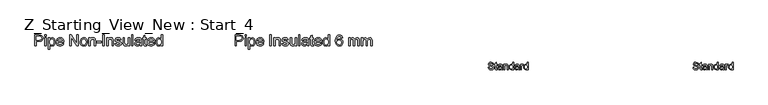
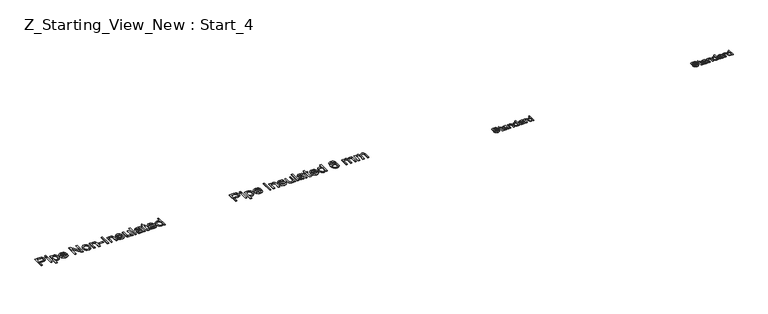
"""IFC4 building model written with IfcOpenShell, lengths in millimetres: pipe fitting geometry, Z_Starting_View_New : Start_4."""

from ifc_helpers import new_model, si_unit, origin, origin_with_axes, place, context, project, spatial, polyline, outline, extrude, source, transform, mapped, element, save


def z_starting_view_new_start_4_25267f94(model_context):
    return source(origin(), model_context, "Body", "SweptSolid", [
        extrude(outline(polyline([(24498.2402014, 7445.7857303), (24498.2402014, 7596.4701955), (24554.0846883, 7596.4701955), (24576.5990664, 7595.0354557), (24594.9011956, 7587.9905155), (24606.76539, 7573.4223885), (24611.2535503, 7552.8761791), (24608.2231224, 7535.1166757), (24599.1318386, 7520.3186225), (24582.1310919, 7510.3306263), (24555.3722752, 7507.0012943), (24517.0757595, 7507.0012943), (24517.0757595, 7445.7857303), (24498.2402014, 7445.7857303)]), holes=[polyline([(24517.0757595, 7525.8368524), (24556.4759212, 7525.8368524), (24573.1777638, 7527.5658978), (24584.2142237, 7532.7530339), (24590.36705, 7541.0763641), (24592.4179922, 7552.2139915), (24587.5803439, 7567.8121881), (24574.870021, 7576.3470504), (24556.0344628, 7577.6346373), (24517.0757595, 7577.6346373), (24517.0757595, 7525.8368524)])]), origin_with_axes(), (0.0, 0.0, 1.0), 5.0),
        extrude(outline(polyline([(24634.797998, 7445.7857303), (24634.797998, 7556.4446344), (24653.6335562, 7556.4446344), (24653.6335562, 7445.7857303), (24634.797998, 7445.7857303)])), origin_with_axes(), (0.0, 0.0, 1.0), 5.0),
        extrude(outline(polyline([(24634.797998, 7577.6346373), (24634.797998, 7596.4701955), (24653.6335562, 7596.4701955), (24653.6335562, 7577.6346373), (24634.797998, 7577.6346373)])), origin_with_axes(), (0.0, 0.0, 1.0), 5.0),
        extrude(outline(polyline([(24681.8868934, 7403.4057244), (24681.8868934, 7556.4446344), (24700.7224515, 7556.4446344), (24700.7224515, 7537.9769583), (24713.7454742, 7553.593549), (24731.3302335, 7558.7990792), (24744.0681476, 7556.9780633), (24755.205775, 7551.5150157), (24764.2740662, 7542.7410301), (24770.8039716, 7530.9872003), (24776.0646842, 7501.9613109), (24774.5793606, 7485.8526781), (24770.1233899, 7471.4454994), (24762.8393264, 7459.4709405), (24752.8697244, 7450.6601667), (24741.2584489, 7445.2385058), (24729.0493652, 7443.4312855), (24712.6602223, 7448.2689337), (24700.7224515, 7460.5010101), (24700.7224515, 7403.4057244), (24681.8868934, 7403.4057244)]), holes=[polyline([(24700.7224515, 7500.2322656), (24702.7595981, 7483.346482), (24708.8710377, 7471.5374699), (24717.8887451, 7464.5845002), (24728.644695, 7462.2668436), (24739.5753888, 7464.6672737), (24748.8230224, 7471.8685637), (24755.1276001, 7484.1098371), (24757.229126, 7501.6302171), (24755.1781839, 7518.4240302), (24749.0253575, 7530.3985892), (24740.0214457, 7537.5722881), (24729.4172472, 7539.963521), (24718.7716619, 7537.4205367), (24709.4228607, 7529.7915839), (24702.8975538, 7517.3157857), (24700.7224515, 7500.2322656)])]), origin_with_axes(), (0.0, 0.0, 1.0), 5.0),
        extrude(outline(polyline([(24874.7306353, 7478.747957), (24893.1983114, 7476.3935123), (24886.5442458, 7462.4783758), (24875.9262517, 7452.0765124), (24861.5834525, 7445.5925922), (24843.7549713, 7443.4312855), (24821.6544604, 7447.1606892), (24804.6491152, 7458.3489004), (24793.8057934, 7476.2693521), (24790.1913528, 7500.1954774), (24793.8425816, 7524.9263445), (24804.796268, 7543.4216118), (24821.571687, 7554.9547123), (24842.6881135, 7558.7990792), (24863.1469509, 7554.9639094), (24879.4947071, 7543.4584), (24890.2138687, 7524.9999209), (24893.7869226, 7500.305842), (24893.676558, 7495.2290704), (24809.0269109, 7495.2290704), (24812.2872651, 7481.129993), (24819.8610357, 7470.7649177), (24830.7917295, 7464.3913622), (24844.1228533, 7462.2668436), (24862.5905294, 7466.203181), (24874.7306353, 7478.747957)]), holes=[polyline([(24809.0269109, 7514.0646286), (24874.9513645, 7514.0646286), (24872.4037816, 7524.0158365), (24867.4097836, 7531.1343531), (24856.428506, 7537.7562291), (24842.6145371, 7539.963521), (24829.9180097, 7538.202286), (24819.4195773, 7532.9185808), (24812.1217182, 7524.6826227), (24809.0269109, 7514.0646286)])]), origin_with_axes(), (0.0, 0.0, 1.0), 5.0),
        extrude(outline(polyline([(24976.1924895, 7445.7857303), (24976.1924895, 7596.4701955), (24995.0280477, 7596.4701955), (24995.0280477, 7445.7857303), (24976.1924895, 7445.7857303)])), origin_with_axes(), (0.0, 0.0, 1.0), 5.0),
        extrude(outline(polyline([(25030.3447192, 7445.7857303), (25030.3447192, 7556.4446344), (25049.1802774, 7556.4446344), (25049.1802774, 7540.9935906), (25063.5828575, 7554.347707), (25083.2461501, 7558.7990792), (25101.0332446, 7555.2122297), (25113.1733504, 7545.7944507), (25118.8203391, 7531.9436935), (25119.8136204, 7513.7335348), (25119.8136204, 7445.7857303), (25100.9780623, 7445.7857303), (25100.9780623, 7511.195149), (25098.8075585, 7527.8602034), (25091.1372189, 7536.6709772), (25078.2061668, 7539.963521), (25067.1743055, 7538.114914), (25057.770322, 7532.5690929), (25051.3277885, 7521.8545298), (25049.1802774, 7504.4996967), (25049.1802774, 7445.7857303), (25030.3447192, 7445.7857303)])), origin_with_axes(), (0.0, 0.0, 1.0), 5.0),
        extrude(outline(polyline([(25138.6491786, 7478.747957), (25157.4847368, 7481.1024018), (25160.4553839, 7473.0457861), (25166.20354, 7467.122886), (25186.1795324, 7462.2668436), (25205.3829725, 7466.7182158), (25211.6369664, 7477.1660645), (25210.0642709, 7481.9669245), (25205.3461843, 7485.6273503), (25185.9588032, 7490.9984275), (25157.5951014, 7500.2138715), (25145.2158722, 7510.9744198), (25141.0036234, 7526.1679462), (25144.3881377, 7540.2026443), (25153.6219758, 7550.9264045), (25165.5965347, 7556.4998167), (25181.8017366, 7558.7990792), (25204.7207849, 7555.1018651), (25219.2889119, 7545.0954749), (25225.7636351, 7528.1912972), (25206.9280769, 7525.8368524), (25199.8463485, 7536.2295188), (25183.2732646, 7539.963521), (25165.2470468, 7536.3950657), (25159.8391815, 7528.0809326), (25162.0832617, 7522.5994909), (25169.1098078, 7518.4424243), (25185.3334038, 7514.4325106), (25212.9797357, 7505.5665545), (25225.8188174, 7495.523376), (25230.4725246, 7479.1526272), (25225.009477, 7461.1264095), (25209.2457335, 7448.0482045), (25185.922015, 7443.4312855), (25166.930107, 7445.6569716), (25153.0701528, 7452.3340298), (25143.8179206, 7463.3888837), (25138.6491786, 7478.747957)])), origin_with_axes(), (0.0, 0.0, 1.0), 5.0),
        extrude(outline(polyline([(25322.2958706, 7445.7857303), (25322.2958706, 7464.8052294), (25307.5438026, 7448.7747715), (25288.3035742, 7443.4312855), (25270.5900562, 7447.1836818), (25258.3763739, 7456.6014609), (25252.7661735, 7470.4706121), (25251.6625275, 7487.9817951), (25251.6625275, 7556.4446344), (25270.4980857, 7556.4446344), (25270.4980857, 7496.8477512), (25271.6385199, 7477.644311), (25279.0881303, 7466.3687279), (25293.1228284, 7462.2668436), (25308.8497837, 7466.4606984), (25319.24245, 7477.8834343), (25322.2958706, 7498.8711022), (25322.2958706, 7556.4446344), (25341.1314287, 7556.4446344), (25341.1314287, 7445.7857303), (25322.2958706, 7445.7857303)])), origin_with_axes(), (0.0, 0.0, 1.0), 5.0),
        extrude(outline(polyline([(25367.0303212, 7445.7857303), (25367.0303212, 7596.4701955), (25385.8658794, 7596.4701955), (25385.8658794, 7445.7857303), (25367.0303212, 7445.7857303)])), origin_with_axes(), (0.0, 0.0, 1.0), 5.0),
        extrude(outline(polyline([(25484.7525597, 7459.9123989), (25466.4872186, 7447.1468936), (25446.3088912, 7443.4312855), (25430.5681403, 7445.6661686), (25418.9568648, 7452.370818), (25411.7969615, 7462.5519522), (25409.410327, 7475.2162899), (25413.0155706, 7490.1155107), (25422.488532, 7500.9312413), (25435.6771015, 7507.1116589), (25451.9742739, 7509.9443502), (25484.6421951, 7516.4190733), (25484.7525597, 7520.6129281), (25483.4557756, 7529.0190317), (25479.5654235, 7534.5188675), (25470.8650143, 7538.6023576), (25458.7433026, 7539.963521), (25439.6870153, 7536.3398834), (25430.60033, 7523.4824076), (25411.7647718, 7525.8368524), (25419.913358, 7544.2309522), (25436.320895, 7555.0098946), (25461.1713238, 7558.7990792), (25483.9984016, 7555.451353), (25496.8926655, 7547.0452494), (25502.6684128, 7534.2613501), (25503.5881178, 7517.7802367), (25503.5881178, 7494.3461536), (25504.544611, 7461.6230502), (25508.2970074, 7445.7857303), (25489.4614492, 7445.7857303), (25484.7525597, 7459.9123989)]), holes=[polyline([(25484.7525597, 7497.5835152), (25454.3655069, 7491.8077679), (25438.160305, 7488.7543473), (25430.8210592, 7483.7879404), (25428.2458852, 7476.5406651), (25433.8560856, 7466.3503338), (25450.3188049, 7462.2668436), (25469.3750923, 7466.7733981), (25481.6623509, 7477.6810992), (25484.6421951, 7492.2492263), (25484.7525597, 7497.5835152)])]), origin_with_axes(), (0.0, 0.0, 1.0), 5.0),
        extrude(outline(polyline([(25569.5125713, 7461.4942915), (25571.8670161, 7445.2339073), (25557.7771357, 7443.4312855), (25541.9949981, 7446.5582825), (25534.1223234, 7454.7620509), (25531.841455, 7476.1359949), (25531.841455, 7537.6090763), (25517.7147864, 7537.6090763), (25517.7147864, 7556.4446344), (25531.841455, 7556.4446344), (25531.841455, 7583.3368083), (25550.6770132, 7594.4100563), (25550.6770132, 7556.4446344), (25569.5125713, 7556.4446344), (25569.5125713, 7537.6090763), (25550.6770132, 7537.6090763), (25550.6770132, 7476.6878179), (25551.6702946, 7466.9757332), (25554.889262, 7463.5360365), (25561.3088029, 7462.2668436), (25569.5125713, 7461.4942915)])), origin_with_axes(), (0.0, 0.0, 1.0), 5.0),
        extrude(outline(polyline([(25665.8240777, 7478.747957), (25684.2917538, 7476.3935123), (25677.6376883, 7462.4783758), (25667.0196942, 7452.0765124), (25652.6768949, 7445.5925922), (25634.8484137, 7443.4312855), (25612.7479028, 7447.1606892), (25595.7425576, 7458.3489004), (25584.8992358, 7476.2693521), (25581.2847952, 7500.1954774), (25584.936024, 7524.9263445), (25595.8897104, 7543.4216118), (25612.6651294, 7554.9547123), (25633.7815559, 7558.7990792), (25654.2403934, 7554.9639094), (25670.5881495, 7543.4584), (25681.3073112, 7524.9999209), (25684.880365, 7500.305842), (25684.7700004, 7495.2290704), (25600.1203533, 7495.2290704), (25603.3807075, 7481.129993), (25610.9544781, 7470.7649177), (25621.8851719, 7464.3913622), (25635.2162957, 7462.2668436), (25653.6839718, 7466.203181), (25665.8240777, 7478.747957)]), holes=[polyline([(25600.1203533, 7514.0646286), (25666.0448069, 7514.0646286), (25663.4972241, 7524.0158365), (25658.503226, 7531.1343531), (25647.5219484, 7537.7562291), (25633.7079795, 7539.963521), (25621.0114521, 7538.202286), (25610.5130197, 7532.9185808), (25603.2151606, 7524.6826227), (25600.1203533, 7514.0646286)])]), origin_with_axes(), (0.0, 0.0, 1.0), 5.0),
        extrude(outline(polyline([(25771.9948215, 7445.7857303), (25771.9948215, 7463.5544306), (25759.5328189, 7448.4620718), (25742.3067445, 7443.4312855), (25730.1298504, 7445.2523014), (25718.983026, 7450.715349), (25709.5468528, 7459.4387508), (25702.5019126, 7471.0408292), (25698.1149198, 7485.0525347), (25696.6525889, 7501.0048177), (25702.0420601, 7530.9872003), (25708.7743006, 7542.8789858), (25718.1920797, 7551.6253803), (25729.582626, 7557.0056545), (25742.2331681, 7558.7990792), (25759.5971983, 7553.6671254), (25771.9948215, 7540.331403), (25771.9948215, 7596.4701955), (25790.8303796, 7596.4701955), (25790.8303796, 7445.7857303), (25771.9948215, 7445.7857303)]), holes=[polyline([(25715.488147, 7501.0783941), (25717.6126656, 7484.0408592), (25723.9862211, 7471.923746), (25733.2476504, 7464.6810692), (25744.0357899, 7462.2668436), (25754.8193308, 7464.5707046), (25763.8462353, 7471.4822876), (25769.9576749, 7483.1303513), (25771.9948215, 7499.6436544), (25769.9208867, 7517.6974633), (25763.6990825, 7530.2146482), (25754.4422518, 7537.5263028), (25743.2632377, 7539.963521), (25732.3647336, 7537.6228718), (25723.4343981, 7530.6009243), (25717.4747098, 7518.5389933), (25715.488147, 7501.0783941)])]), origin_with_axes(), (0.0, 0.0, 1.0), 5.0),
        extrude(outline(polyline([(25969.7681821, 7556.4446344), (25950.9326239, 7554.0901896), (25943.7957132, 7569.7987508), (25935.2516539, 7575.6756657), (25924.9233669, 7577.6346373), (25907.9272187, 7573.0729006), (25895.069743, 7555.9479937), (25891.1655953, 7541.9178941), (25889.71706, 7522.3787617), (25906.326932, 7537.4067412), (25926.9099297, 7542.3179658), (25944.310748, 7538.9610426), (25958.9156632, 7528.890273), (25968.820886, 7513.5036085), (25972.1226269, 7494.1990008), (25970.5683254, 7480.7115272), (25965.9054212, 7468.2081379), (25958.5201901, 7457.6039394), (25948.7989084, 7449.8140381), (25937.1830344, 7445.0269737), (25924.1140265, 7443.4312855), (25902.7446811, 7447.6619284), (25885.7255403, 7460.3538573), (25874.5925114, 7482.7578708), (25870.8815018, 7516.1247677), (25875.0017801, 7553.6395342), (25887.3626152, 7579.2901063), (25904.2392017, 7592.1751732), (25926.1005893, 7596.4701955), (25942.6276879, 7593.8122481), (25955.8622427, 7585.8384058), (25965.132869, 7573.1740681), (25969.7681821, 7556.4446344)]), holes=[polyline([(25889.71706, 7494.4933064), (25894.0764616, 7478.1777399), (25905.6647444, 7466.3319397), (25922.6424985, 7462.2668436), (25935.0723114, 7464.3729681), (25944.8441769, 7470.6913413), (25951.1763458, 7480.6241552), (25953.2870687, 7493.5736014), (25951.2039369, 7506.0034144), (25944.9545415, 7515.4809743), (25935.0171291, 7521.4820493), (25921.8699463, 7523.4824076), (25909.4585275, 7521.4820493), (25899.0796567, 7515.4809743), (25892.0577091, 7506.2333406), (25889.71706, 7494.4933064)])]), origin_with_axes(), (0.0, 0.0, 1.0), 5.0),
        extrude(outline(polyline([(26052.173749, 7445.7857303), (26052.173749, 7556.4446344), (26071.0093072, 7556.4446344), (26071.0093072, 7538.2344757), (26083.9587534, 7553.1520906), (26102.3896414, 7558.7990792), (26112.8650812, 7557.3597409), (26121.2619877, 7553.041726), (26131.63626, 7536.9101005), (26146.3331457, 7553.3268345), (26164.8927923, 7558.7990792), (26179.0516506, 7556.5228093), (26189.5224919, 7549.6939998), (26195.9926165, 7538.1287096), (26198.1493247, 7521.6429977), (26198.1493247, 7445.7857303), (26179.3137666, 7445.7857303), (26179.3137666, 7513.5495938), (26177.5663271, 7529.2765491), (26171.2387568, 7537.0204651), (26160.4782084, 7539.963521), (26150.2740816, 7538.0781258), (26141.9553499, 7532.4219401), (26136.4233244, 7522.6086879), (26134.5793159, 7508.252093), (26134.5793159, 7445.7857303), (26115.7437578, 7445.7857303), (26115.7437578, 7515.6465212), (26111.3843561, 7533.8934681), (26105.6316014, 7538.4460078), (26097.0921406, 7539.963521), (26083.149413, 7535.9168191), (26073.8787867, 7524.0710188), (26071.0093072, 7501.5934289), (26071.0093072, 7445.7857303), (26052.173749, 7445.7857303)])), origin_with_axes(), (0.0, 0.0, 1.0), 5.0),
        extrude(outline(polyline([(26226.4026619, 7445.7857303), (26226.4026619, 7556.4446344), (26245.2382201, 7556.4446344), (26245.2382201, 7538.2344757), (26258.1876663, 7553.1520906), (26276.6185543, 7558.7990792), (26287.0939941, 7557.3597409), (26295.4909006, 7553.041726), (26305.8651729, 7536.9101005), (26320.5620586, 7553.3268345), (26339.1217053, 7558.7990792), (26353.2805635, 7556.5228093), (26363.7514048, 7549.6939998), (26370.2215294, 7538.1287096), (26372.3782376, 7521.6429977), (26372.3782376, 7445.7857303), (26353.5426795, 7445.7857303), (26353.5426795, 7513.5495938), (26351.79524, 7529.2765491), (26345.4676697, 7537.0204651), (26334.7071213, 7539.963521), (26324.5029945, 7538.0781258), (26316.1842629, 7532.4219401), (26310.6522374, 7522.6086879), (26308.8082289, 7508.252093), (26308.8082289, 7445.7857303), (26289.9726707, 7445.7857303), (26289.9726707, 7515.6465212), (26285.6132691, 7533.8934681), (26279.8605144, 7538.4460078), (26271.3210535, 7539.963521), (26257.3783259, 7535.9168191), (26248.1076997, 7524.0710188), (26245.2382201, 7501.5934289), (26245.2382201, 7445.7857303), (26226.4026619, 7445.7857303)])), origin_with_axes(), (0.0, 0.0, 1.0), 5.0),
        extrude(outline(polyline([(21762.9874325, 7445.7857303), (21762.9874325, 7596.4701955), (21818.8319194, 7596.4701955), (21841.3462975, 7595.0354557), (21859.6484268, 7587.9905155), (21871.5126211, 7573.4223885), (21876.0007815, 7552.8761791), (21872.9703535, 7535.1166757), (21863.8790697, 7520.3186225), (21846.878323, 7510.3306263), (21820.1195064, 7507.0012943), (21781.8229907, 7507.0012943), (21781.8229907, 7445.7857303), (21762.9874325, 7445.7857303)]), holes=[polyline([(21781.8229907, 7525.8368524), (21821.2231524, 7525.8368524), (21837.924995, 7527.5658978), (21848.9614548, 7532.7530339), (21855.1142812, 7541.0763641), (21857.1652233, 7552.2139915), (21852.3275751, 7567.8121881), (21839.6172521, 7576.3470504), (21820.781694, 7577.6346373), (21781.8229907, 7577.6346373), (21781.8229907, 7525.8368524)])]), origin_with_axes(), (0.0, 0.0, 1.0), 5.0),
        extrude(outline(polyline([(21899.5452292, 7445.7857303), (21899.5452292, 7556.4446344), (21918.3807873, 7556.4446344), (21918.3807873, 7445.7857303), (21899.5452292, 7445.7857303)])), origin_with_axes(), (0.0, 0.0, 1.0), 5.0),
        extrude(outline(polyline([(21899.5452292, 7577.6346373), (21899.5452292, 7596.4701955), (21918.3807873, 7596.4701955), (21918.3807873, 7577.6346373), (21899.5452292, 7577.6346373)])), origin_with_axes(), (0.0, 0.0, 1.0), 5.0),
        extrude(outline(polyline([(21946.6341245, 7403.4057244), (21946.6341245, 7556.4446344), (21965.4696827, 7556.4446344), (21965.4696827, 7537.9769583), (21978.4927053, 7553.593549), (21996.0774647, 7558.7990792), (22008.8153788, 7556.9780633), (22019.9530062, 7551.5150157), (22029.0212974, 7542.7410301), (22035.5512028, 7530.9872003), (22040.8119153, 7501.9613109), (22039.3265917, 7485.8526781), (22034.8706211, 7471.4454994), (22027.5865576, 7459.4709405), (22017.6169555, 7450.6601667), (22006.00568, 7445.2385058), (21993.7965963, 7443.4312855), (21977.4074534, 7448.2689337), (21965.4696827, 7460.5010101), (21965.4696827, 7403.4057244), (21946.6341245, 7403.4057244)]), holes=[polyline([(21965.4696827, 7500.2322656), (21967.5068292, 7483.346482), (21973.6182689, 7471.5374699), (21982.6359763, 7464.5845002), (21993.3919261, 7462.2668436), (22004.3226199, 7464.6672737), (22013.5702536, 7471.8685637), (22019.8748313, 7484.1098371), (22021.9763572, 7501.6302171), (22019.925415, 7518.4240302), (22013.7725887, 7530.3985892), (22004.7686768, 7537.5722881), (21994.1644783, 7539.963521), (21983.5188931, 7537.4205367), (21974.1700919, 7529.7915839), (21967.644785, 7517.3157857), (21965.4696827, 7500.2322656)])]), origin_with_axes(), (0.0, 0.0, 1.0), 5.0),
        extrude(outline(polyline([(22139.4778664, 7478.747957), (22157.9455426, 7476.3935123), (22151.291477, 7462.4783758), (22140.6734829, 7452.0765124), (22126.3306836, 7445.5925922), (22108.5022024, 7443.4312855), (22086.4016916, 7447.1606892), (22069.3963463, 7458.3489004), (22058.5530245, 7476.2693521), (22054.9385839, 7500.1954774), (22058.5898127, 7524.9263445), (22069.5434991, 7543.4216118), (22086.3189181, 7554.9547123), (22107.4353446, 7558.7990792), (22127.8941821, 7554.9639094), (22144.2419382, 7543.4584), (22154.9610999, 7524.9999209), (22158.5341538, 7500.305842), (22158.4237892, 7495.2290704), (22073.7741421, 7495.2290704), (22077.0344963, 7481.129993), (22084.6082668, 7470.7649177), (22095.5389606, 7464.3913622), (22108.8700844, 7462.2668436), (22127.3377606, 7466.203181), (22139.4778664, 7478.747957)]), holes=[polyline([(22073.7741421, 7514.0646286), (22139.6985956, 7514.0646286), (22137.1510128, 7524.0158365), (22132.1570147, 7531.1343531), (22121.1757371, 7537.7562291), (22107.3617682, 7539.963521), (22094.6652409, 7538.202286), (22084.1668084, 7532.9185808), (22076.8689494, 7524.6826227), (22073.7741421, 7514.0646286)])]), origin_with_axes(), (0.0, 0.0, 1.0), 5.0),
        extrude(outline(polyline([(22238.5852759, 7445.7857303), (22238.5852759, 7596.4701955), (22258.7452092, 7596.4701955), (22337.4719562, 7477.0924881), (22337.4719562, 7596.4701955), (22356.3075144, 7596.4701955), (22356.3075144, 7445.7857303), (22336.147581, 7445.7857303), (22257.4208341, 7565.2002259), (22257.4208341, 7445.7857303), (22238.5852759, 7445.7857303)])), origin_with_axes(), (0.0, 0.0, 1.0), 5.0),
        extrude(outline(polyline([(22382.2064068, 7501.1151823), (22386.2806999, 7527.795824), (22398.5035792, 7546.5486087), (22413.6051351, 7555.7364616), (22431.6865352, 7558.7990792), (22451.473988, 7555.0696755), (22467.2791182, 7543.8814643), (22477.6395949, 7526.1173624), (22481.0930871, 7502.6602867), (22479.5663769, 7483.6315905), (22474.986246, 7469.146237), (22467.4860518, 7458.2983166), (22457.1991515, 7450.1819201), (22444.9808708, 7445.1189441), (22431.6865352, 7443.4312855), (22411.6599591, 7447.1468936), (22395.8732229, 7458.2937181), (22385.6231109, 7476.4303005), (22382.2064068, 7501.1151823)]), holes=[polyline([(22401.041965, 7501.1519705), (22403.2216658, 7484.1052386), (22409.7607683, 7471.9605342), (22419.6016116, 7464.6902663), (22431.6865352, 7462.2668436), (22443.7162764, 7464.7040619), (22453.5387257, 7472.0157165), (22460.0778282, 7484.3213693), (22462.257529, 7501.7405817), (22460.0640326, 7518.290673), (22453.4835434, 7530.2698305), (22443.6472985, 7537.5400984), (22431.6865352, 7539.963521), (22419.6016116, 7537.5492954), (22409.7607683, 7530.3066187), (22403.2216658, 7518.1895054), (22401.041965, 7501.1519705)])]), origin_with_axes(), (0.0, 0.0, 1.0), 5.0),
        extrude(outline(polyline([(22502.2830901, 7445.7857303), (22502.2830901, 7556.4446344), (22521.1186482, 7556.4446344), (22521.1186482, 7540.9935906), (22535.5212283, 7554.347707), (22555.184521, 7558.7990792), (22572.9716154, 7555.2122297), (22585.1117213, 7545.7944507), (22590.7587099, 7531.9436935), (22591.7519913, 7513.7335348), (22591.7519913, 7445.7857303), (22572.9164331, 7445.7857303), (22572.9164331, 7511.195149), (22570.7459294, 7527.8602034), (22563.0755898, 7536.6709772), (22550.1445376, 7539.963521), (22539.1126763, 7538.114914), (22529.7086928, 7532.5690929), (22523.2661594, 7521.8545298), (22521.1186482, 7504.4996967), (22521.1186482, 7445.7857303), (22502.2830901, 7445.7857303)])), origin_with_axes(), (0.0, 0.0, 1.0), 5.0),
        extrude(outline(polyline([(22608.2331047, 7490.5201809), (22608.2331047, 7509.355739), (22667.0942239, 7509.355739), (22667.0942239, 7490.5201809), (22608.2331047, 7490.5201809)])), origin_with_axes(), (0.0, 0.0, 1.0), 5.0),
        extrude(outline(polyline([(22692.9931164, 7445.7857303), (22692.9931164, 7596.4701955), (22711.8286745, 7596.4701955), (22711.8286745, 7445.7857303), (22692.9931164, 7445.7857303)])), origin_with_axes(), (0.0, 0.0, 1.0), 5.0),
        extrude(outline(polyline([(22747.145346, 7445.7857303), (22747.145346, 7556.4446344), (22765.9809042, 7556.4446344), (22765.9809042, 7540.9935906), (22780.3834843, 7554.347707), (22800.0467769, 7558.7990792), (22817.8338714, 7555.2122297), (22829.9739773, 7545.7944507), (22835.6209659, 7531.9436935), (22836.6142473, 7513.7335348), (22836.6142473, 7445.7857303), (22817.7786891, 7445.7857303), (22817.7786891, 7511.195149), (22815.6081853, 7527.8602034), (22807.9378457, 7536.6709772), (22795.0067936, 7539.963521), (22783.9749323, 7538.114914), (22774.5709488, 7532.5690929), (22768.1284153, 7521.8545298), (22765.9809042, 7504.4996967), (22765.9809042, 7445.7857303), (22747.145346, 7445.7857303)])), origin_with_axes(), (0.0, 0.0, 1.0), 5.0),
        extrude(outline(polyline([(22855.4498054, 7478.747957), (22874.2853636, 7481.1024018), (22877.2560107, 7473.0457861), (22883.0041669, 7467.122886), (22902.9801592, 7462.2668436), (22922.1835993, 7466.7182158), (22928.4375933, 7477.1660645), (22926.8648977, 7481.9669245), (22922.1468111, 7485.6273503), (22902.75943, 7490.9984275), (22874.3957282, 7500.2138715), (22862.016499, 7510.9744198), (22857.8042502, 7526.1679462), (22861.1887645, 7540.2026443), (22870.4226026, 7550.9264045), (22882.3971616, 7556.4998167), (22898.6023635, 7558.7990792), (22921.5214118, 7555.1018651), (22936.0895388, 7545.0954749), (22942.5642619, 7528.1912972), (22923.7287037, 7525.8368524), (22916.6469753, 7536.2295188), (22900.0738914, 7539.963521), (22882.0476737, 7536.3950657), (22876.6398083, 7528.0809326), (22878.8838885, 7522.5994909), (22885.9104346, 7518.4424243), (22902.1340306, 7514.4325106), (22929.7803625, 7505.5665545), (22942.6194442, 7495.523376), (22947.2731514, 7479.1526272), (22941.8101038, 7461.1264095), (22926.0463603, 7448.0482045), (22902.7226418, 7443.4312855), (22883.7307338, 7445.6569716), (22869.8707796, 7452.3340298), (22860.6185475, 7463.3888837), (22855.4498054, 7478.747957)])), origin_with_axes(), (0.0, 0.0, 1.0), 5.0),
        extrude(outline(polyline([(23039.0964974, 7445.7857303), (23039.0964974, 7464.8052294), (23024.3444294, 7448.7747715), (23005.1042011, 7443.4312855), (22987.390683, 7447.1836818), (22975.1770008, 7456.6014609), (22969.5668003, 7470.4706121), (22968.4631543, 7487.9817951), (22968.4631543, 7556.4446344), (22987.2987125, 7556.4446344), (22987.2987125, 7496.8477512), (22988.4391467, 7477.644311), (22995.8887571, 7466.3687279), (23009.9234552, 7462.2668436), (23025.6504105, 7466.4606984), (23036.0430769, 7477.8834343), (23039.0964974, 7498.8711022), (23039.0964974, 7556.4446344), (23057.9320556, 7556.4446344), (23057.9320556, 7445.7857303), (23039.0964974, 7445.7857303)])), origin_with_axes(), (0.0, 0.0, 1.0), 5.0),
        extrude(outline(polyline([(23083.830948, 7445.7857303), (23083.830948, 7596.4701955), (23102.6665062, 7596.4701955), (23102.6665062, 7445.7857303), (23083.830948, 7445.7857303)])), origin_with_axes(), (0.0, 0.0, 1.0), 5.0),
        extrude(outline(polyline([(23201.5531865, 7459.9123989), (23183.2878454, 7447.1468936), (23163.109518, 7443.4312855), (23147.3687671, 7445.6661686), (23135.7574916, 7452.370818), (23128.5975883, 7462.5519522), (23126.2109539, 7475.2162899), (23129.8161974, 7490.1155107), (23139.2891588, 7500.9312413), (23152.4777283, 7507.1116589), (23168.7749007, 7509.9443502), (23201.4428219, 7516.4190733), (23201.5531865, 7520.6129281), (23200.2564025, 7529.0190317), (23196.3660504, 7534.5188675), (23187.6656412, 7538.6023576), (23175.5439294, 7539.963521), (23156.4876421, 7536.3398834), (23147.4009568, 7523.4824076), (23128.5653986, 7525.8368524), (23136.7139848, 7544.2309522), (23153.1215218, 7555.0098946), (23177.9719506, 7558.7990792), (23200.7990284, 7555.451353), (23213.6932923, 7547.0452494), (23219.4690397, 7534.2613501), (23220.3887446, 7517.7802367), (23220.3887446, 7494.3461536), (23221.3452378, 7461.6230502), (23225.0976342, 7445.7857303), (23206.262076, 7445.7857303), (23201.5531865, 7459.9123989)]), holes=[polyline([(23201.5531865, 7497.5835152), (23171.1661337, 7491.8077679), (23154.9609318, 7488.7543473), (23147.621686, 7483.7879404), (23145.046512, 7476.5406651), (23150.6567125, 7466.3503338), (23167.1194317, 7462.2668436), (23186.1757191, 7466.7733981), (23198.4629777, 7477.6810992), (23201.4428219, 7492.2492263), (23201.5531865, 7497.5835152)])]), origin_with_axes(), (0.0, 0.0, 1.0), 5.0),
        extrude(outline(polyline([(23286.3131982, 7461.4942915), (23288.6676429, 7445.2339073), (23274.5777625, 7443.4312855), (23258.7956249, 7446.5582825), (23250.9229502, 7454.7620509), (23248.6420819, 7476.1359949), (23248.6420819, 7537.6090763), (23234.5154133, 7537.6090763), (23234.5154133, 7556.4446344), (23248.6420819, 7556.4446344), (23248.6420819, 7583.3368083), (23267.47764, 7594.4100563), (23267.47764, 7556.4446344), (23286.3131982, 7556.4446344), (23286.3131982, 7537.6090763), (23267.47764, 7537.6090763), (23267.47764, 7476.6878179), (23268.4709214, 7466.9757332), (23271.6898889, 7463.5360365), (23278.1094297, 7462.2668436), (23286.3131982, 7461.4942915)])), origin_with_axes(), (0.0, 0.0, 1.0), 5.0),
        extrude(outline(polyline([(23382.6247045, 7478.747957), (23401.0923807, 7476.3935123), (23394.4383151, 7462.4783758), (23383.820321, 7452.0765124), (23369.4775217, 7445.5925922), (23351.6490405, 7443.4312855), (23329.5485297, 7447.1606892), (23312.5431844, 7458.3489004), (23301.6998626, 7476.2693521), (23298.085422, 7500.1954774), (23301.7366508, 7524.9263445), (23312.6903372, 7543.4216118), (23329.4657562, 7554.9547123), (23350.5821827, 7558.7990792), (23371.0410202, 7554.9639094), (23387.3887763, 7543.4584), (23398.107938, 7524.9999209), (23401.6809919, 7500.305842), (23401.5706273, 7495.2290704), (23316.9209802, 7495.2290704), (23320.1813344, 7481.129993), (23327.7551049, 7470.7649177), (23338.6857987, 7464.3913622), (23352.0169225, 7462.2668436), (23370.4845987, 7466.203181), (23382.6247045, 7478.747957)]), holes=[polyline([(23316.9209802, 7514.0646286), (23382.8454337, 7514.0646286), (23380.2978509, 7524.0158365), (23375.3038528, 7531.1343531), (23364.3225753, 7537.7562291), (23350.5086063, 7539.963521), (23337.812079, 7538.202286), (23327.3136465, 7532.9185808), (23320.0157875, 7524.6826227), (23316.9209802, 7514.0646286)])]), origin_with_axes(), (0.0, 0.0, 1.0), 5.0),
        extrude(outline(polyline([(23488.7954483, 7445.7857303), (23488.7954483, 7463.5544306), (23476.3334457, 7448.4620718), (23459.1073713, 7443.4312855), (23446.9304773, 7445.2523014), (23435.7836528, 7450.715349), (23426.3474796, 7459.4387508), (23419.3025394, 7471.0408292), (23414.9155466, 7485.0525347), (23413.4532157, 7501.0048177), (23418.8426869, 7530.9872003), (23425.5749274, 7542.8789858), (23434.9927065, 7551.6253803), (23446.3832528, 7557.0056545), (23459.0337949, 7558.7990792), (23476.3978251, 7553.6671254), (23488.7954483, 7540.331403), (23488.7954483, 7596.4701955), (23507.6310065, 7596.4701955), (23507.6310065, 7445.7857303), (23488.7954483, 7445.7857303)]), holes=[polyline([(23432.2887739, 7501.0783941), (23434.4132924, 7484.0408592), (23440.7868479, 7471.923746), (23450.0482772, 7464.6810692), (23460.8364167, 7462.2668436), (23471.6199577, 7464.5707046), (23480.6468621, 7471.4822876), (23486.7583018, 7483.1303513), (23488.7954483, 7499.6436544), (23486.7215136, 7517.6974633), (23480.4997093, 7530.2146482), (23471.2428786, 7537.5263028), (23460.0638645, 7539.963521), (23449.1653604, 7537.6228718), (23440.235025, 7530.6009243), (23434.2753366, 7518.5389933), (23432.2887739, 7501.0783941)])]), origin_with_axes(), (0.0, 0.0, 1.0), 5.0),
        extrude(outline(polyline([(30758.6619591, 7155.3175869), (30771.2189979, 7155.3175869), (30775.2656999, 7142.7482854), (30785.1494628, 7134.8020343), (30800.2080991, 7131.7731392), (30813.3292236, 7134.0662703), (30821.8027722, 7140.3693151), (30824.5864127, 7148.7938128), (30822.501748, 7156.6296993), (30813.9668857, 7162.3318703), (30795.6831506, 7167.1265989), (30776.0014638, 7173.3192792), (30765.3206232, 7182.6634819), (30761.8012188, 7195.1469442), (30766.1544891, 7209.359452), (30778.8709434, 7219.3903677), (30797.4857724, 7222.8116703), (30817.3514001, 7219.2309522), (30830.5951519, 7208.7095271), (30835.5738216, 7192.9887032), (30823.0167828, 7192.9887032), (30820.711389, 7200.4812332), (30815.9043976, 7205.8890985), (30797.9762817, 7210.2546315), (30779.9991149, 7205.9381494), (30774.3582576, 7195.5148262), (30778.3559086, 7186.8082857), (30798.8591985, 7179.7940023), (30821.079271, 7173.4909574), (30833.2316396, 7163.3128889), (30837.1434514, 7149.1126439), (30832.6430284, 7134.0907958), (30819.6935821, 7123.1279123), (30800.6986085, 7119.2161004), (30778.2700695, 7123.4344806), (30764.0820872, 7136.1386722), (30758.6619591, 7155.3175869)])), origin_with_axes(), (0.0, 0.0, 1.0), 5.0),
        extrude(outline(polyline([(30881.0930871, 7131.2581044), (30882.662717, 7120.4178483), (30873.2694634, 7119.2161004), (30862.7480383, 7121.3007651), (30857.4995885, 7126.7699441), (30855.9790096, 7141.01924), (30855.9790096, 7182.0012943), (30846.5612305, 7182.0012943), (30846.5612305, 7194.558333), (30855.9790096, 7194.558333), (30855.9790096, 7212.4864489), (30868.5360484, 7219.8686143), (30868.5360484, 7194.558333), (30881.0930871, 7194.558333), (30881.0930871, 7182.0012943), (30868.5360484, 7182.0012943), (30868.5360484, 7141.387122), (30869.198236, 7134.9123989), (30871.3442143, 7132.6192678), (30875.6239081, 7131.7731392), (30881.0930871, 7131.2581044)])), origin_with_axes(), (0.0, 0.0, 1.0), 5.0),
        extrude(outline(polyline([(30940.7390213, 7130.2035093), (30928.5621272, 7121.6931725), (30915.109909, 7119.2161004), (30904.616075, 7120.7060225), (30896.8752247, 7125.1757887), (30892.1019558, 7131.9632116), (30890.5108662, 7140.4061033), (30892.9143619, 7150.3389172), (30899.2296695, 7157.5494043), (30908.0220492, 7161.6696827), (30918.8868308, 7163.5581436), (30940.6654449, 7167.8746256), (30940.7390213, 7170.6705288), (30937.2809305, 7179.9411551), (30923.3995166, 7183.5709241), (30910.695325, 7181.1551657), (30904.6375348, 7172.5835152), (30892.0804961, 7174.153145), (30897.5128868, 7186.4158782), (30908.4512448, 7193.6018398), (30925.0181974, 7196.1279629), (30940.2362492, 7193.8961454), (30948.8324252, 7188.2920764), (30952.6829234, 7179.7694768), (30953.2960601, 7168.7820679), (30953.2960601, 7153.1593458), (30953.9337222, 7131.3439435), (30956.4353197, 7120.7857303), (30943.878281, 7120.7857303), (30940.7390213, 7130.2035093)]), holes=[polyline([(30940.7390213, 7155.3175869), (30920.4809861, 7151.4670887), (30909.6775182, 7149.431475), (30904.7846876, 7146.120537), (30903.067905, 7141.2890201), (30906.8080386, 7134.495466), (30917.7831848, 7131.7731392), (30930.4873764, 7134.7775088), (30938.6788821, 7142.0493096), (30940.6654449, 7151.7613943), (30940.7390213, 7155.3175869)])]), origin_with_axes(), (0.0, 0.0, 1.0), 5.0),
        extrude(outline(polyline([(30970.5619884, 7120.7857303), (30970.5619884, 7194.558333), (30983.1190271, 7194.558333), (30983.1190271, 7184.2576372), (30992.7207472, 7193.1603815), (31005.829609, 7196.1279629), (31017.6876719, 7193.7367299), (31025.7810758, 7187.4582105), (31029.5457349, 7178.2243724), (31030.2079225, 7166.0842666), (31030.2079225, 7120.7857303), (31017.6508837, 7120.7857303), (31017.6508837, 7164.3920094), (31016.2038812, 7175.5020457), (31011.0903215, 7181.3758949), (31002.4696201, 7183.5709241), (30988.8457235, 7178.6413054), (30984.5507012, 7171.4982633), (30983.1190271, 7159.9283746), (30983.1190271, 7120.7857303), (30970.5619884, 7120.7857303)])), origin_with_axes(), (0.0, 0.0, 1.0), 5.0),
        extrude(outline(polyline([(31092.9931164, 7120.7857303), (31092.9931164, 7132.6315305), (31084.6851146, 7122.5699579), (31073.201065, 7119.2161004), (31057.6519193, 7124.0721428), (31046.6645104, 7137.6224629), (31042.7649613, 7157.5984553), (31046.3579421, 7177.5867103), (31057.1246218, 7191.3454969), (31073.1520141, 7196.1279629), (31084.7280342, 7192.7066603), (31092.9931164, 7183.8161788), (31092.9931164, 7221.2420404), (31105.5501551, 7221.2420404), (31105.5501551, 7120.7857303), (31092.9931164, 7120.7857303)]), holes=[polyline([(31055.322, 7157.6475062), (31056.7383457, 7146.2891496), (31060.9873828, 7138.2110741), (31067.1616689, 7133.3826229), (31074.3537619, 7131.7731392), (31081.5427893, 7133.3090465), (31087.5607256, 7137.9167685), (31091.6350187, 7145.6821443), (31092.9931164, 7156.691013), (31091.6104932, 7168.7268856), (31087.4626237, 7177.0716755), (31081.2914032, 7181.946112), (31073.8387271, 7183.5709241), (31066.5730577, 7182.0104913), (31060.6195008, 7177.3291929), (31056.6463752, 7169.2879056), (31055.322, 7157.6475062)])]), origin_with_axes(), (0.0, 0.0, 1.0), 5.0),
        extrude(outline(polyline([(31171.4746087, 7130.2035093), (31159.2977146, 7121.6931725), (31145.8454963, 7119.2161004), (31135.3516624, 7120.7060225), (31127.6108121, 7125.1757887), (31122.8375432, 7131.9632116), (31121.2464536, 7140.4061033), (31123.6499493, 7150.3389172), (31129.9652569, 7157.5494043), (31138.7576366, 7161.6696827), (31149.6224181, 7163.5581436), (31171.4010323, 7167.8746256), (31171.4746087, 7170.6705288), (31168.0165179, 7179.9411551), (31154.135104, 7183.5709241), (31141.4309124, 7181.1551657), (31135.3731222, 7172.5835152), (31122.8160834, 7174.153145), (31128.2484742, 7186.4158782), (31139.1868322, 7193.6018398), (31155.7537847, 7196.1279629), (31170.9718366, 7193.8961454), (31179.5680126, 7188.2920764), (31183.4185108, 7179.7694768), (31184.0316474, 7168.7820679), (31184.0316474, 7153.1593458), (31184.6693096, 7131.3439435), (31187.1709071, 7120.7857303), (31174.6138683, 7120.7857303), (31171.4746087, 7130.2035093)]), holes=[polyline([(31171.4746087, 7155.3175869), (31151.2165735, 7151.4670887), (31140.4131055, 7149.431475), (31135.520275, 7146.120537), (31133.8034924, 7141.2890201), (31137.543626, 7134.495466), (31148.5187722, 7131.7731392), (31161.2229637, 7134.7775088), (31169.4144695, 7142.0493096), (31171.4010323, 7151.7613943), (31171.4746087, 7155.3175869)])]), origin_with_axes(), (0.0, 0.0, 1.0), 5.0),
        extrude(outline(polyline([(31201.2975757, 7120.7857303), (31201.2975757, 7194.558333), (31212.2849847, 7194.558333), (31212.2849847, 7183.6445005), (31220.084083, 7193.6999417), (31227.9322322, 7196.1279629), (31240.5383219, 7192.2529392), (31236.3444671, 7180.9957501), (31227.5152993, 7183.5709241), (31220.4151767, 7181.093852), (31215.8902282, 7174.2267214), (31213.8546145, 7159.5604926), (31213.8546145, 7120.7857303), (31201.2975757, 7120.7857303)])), origin_with_axes(), (0.0, 0.0, 1.0), 5.0),
        extrude(outline(polyline([(31293.9057367, 7120.7857303), (31293.9057367, 7132.6315305), (31285.5977349, 7122.5699579), (31274.1136853, 7119.2161004), (31258.5645396, 7124.0721428), (31247.5771307, 7137.6224629), (31243.6775816, 7157.5984553), (31247.2705624, 7177.5867103), (31258.0372421, 7191.3454969), (31274.0646344, 7196.1279629), (31285.6406545, 7192.7066603), (31293.9057367, 7183.8161788), (31293.9057367, 7221.2420404), (31306.4627754, 7221.2420404), (31306.4627754, 7120.7857303), (31293.9057367, 7120.7857303)]), holes=[polyline([(31256.2346203, 7157.6475062), (31257.650966, 7146.2891496), (31261.9000031, 7138.2110741), (31268.0742892, 7133.3826229), (31275.2663822, 7131.7731392), (31282.4554096, 7133.3090465), (31288.4733459, 7137.9167685), (31292.547639, 7145.6821443), (31293.9057367, 7156.691013), (31292.5231135, 7168.7268856), (31288.375244, 7177.0716755), (31282.2040235, 7181.946112), (31274.7513474, 7183.5709241), (31267.485678, 7182.0104913), (31261.5321211, 7177.3291929), (31257.5589955, 7169.2879056), (31256.2346203, 7157.6475062)])]), origin_with_axes(), (0.0, 0.0, 1.0), 5.0),
        extrude(outline(polyline([(27958.6619591, 7155.3175869), (27971.2189979, 7155.3175869), (27975.2656999, 7142.7482854), (27985.1494628, 7134.8020343), (28000.2080991, 7131.7731392), (28013.3292236, 7134.0662703), (28021.8027722, 7140.3693151), (28024.5864127, 7148.7938128), (28022.501748, 7156.6296993), (28013.9668857, 7162.3318703), (27995.6831506, 7167.1265989), (27976.0014638, 7173.3192792), (27965.3206232, 7182.6634819), (27961.8012188, 7195.1469442), (27966.1544891, 7209.359452), (27978.8709434, 7219.3903677), (27997.4857724, 7222.8116703), (28017.3514001, 7219.2309522), (28030.5951519, 7208.7095271), (28035.5738216, 7192.9887032), (28023.0167828, 7192.9887032), (28020.711389, 7200.4812332), (28015.9043976, 7205.8890985), (27997.9762817, 7210.2546315), (27979.9991149, 7205.9381494), (27974.3582576, 7195.5148262), (27978.3559086, 7186.8082857), (27998.8591985, 7179.7940023), (28021.079271, 7173.4909574), (28033.2316396, 7163.3128889), (28037.1434514, 7149.1126439), (28032.6430284, 7134.0907958), (28019.6935821, 7123.1279123), (28000.6986085, 7119.2161004), (27978.2700695, 7123.4344806), (27964.0820872, 7136.1386722), (27958.6619591, 7155.3175869)])), origin_with_axes(), (0.0, 0.0, 1.0), 5.0),
        extrude(outline(polyline([(28081.0930871, 7131.2581044), (28082.662717, 7120.4178483), (28073.2694634, 7119.2161004), (28062.7480383, 7121.3007651), (28057.4995885, 7126.7699441), (28055.9790096, 7141.01924), (28055.9790096, 7182.0012943), (28046.5612305, 7182.0012943), (28046.5612305, 7194.558333), (28055.9790096, 7194.558333), (28055.9790096, 7212.4864489), (28068.5360484, 7219.8686143), (28068.5360484, 7194.558333), (28081.0930871, 7194.558333), (28081.0930871, 7182.0012943), (28068.5360484, 7182.0012943), (28068.5360484, 7141.387122), (28069.198236, 7134.9123989), (28071.3442143, 7132.6192678), (28075.6239081, 7131.7731392), (28081.0930871, 7131.2581044)])), origin_with_axes(), (0.0, 0.0, 1.0), 5.0),
        extrude(outline(polyline([(28140.7390213, 7130.2035093), (28128.5621272, 7121.6931725), (28115.109909, 7119.2161004), (28104.616075, 7120.7060225), (28096.8752247, 7125.1757887), (28092.1019558, 7131.9632116), (28090.5108662, 7140.4061033), (28092.9143619, 7150.3389172), (28099.2296695, 7157.5494043), (28108.0220492, 7161.6696827), (28118.8868308, 7163.5581436), (28140.6654449, 7167.8746256), (28140.7390213, 7170.6705288), (28137.2809305, 7179.9411551), (28123.3995166, 7183.5709241), (28110.695325, 7181.1551657), (28104.6375348, 7172.5835152), (28092.0804961, 7174.153145), (28097.5128868, 7186.4158782), (28108.4512448, 7193.6018398), (28125.0181974, 7196.1279629), (28140.2362492, 7193.8961454), (28148.8324252, 7188.2920764), (28152.6829234, 7179.7694768), (28153.2960601, 7168.7820679), (28153.2960601, 7153.1593458), (28153.9337222, 7131.3439435), (28156.4353197, 7120.7857303), (28143.878281, 7120.7857303), (28140.7390213, 7130.2035093)]), holes=[polyline([(28140.7390213, 7155.3175869), (28120.4809861, 7151.4670887), (28109.6775182, 7149.431475), (28104.7846876, 7146.120537), (28103.067905, 7141.2890201), (28106.8080386, 7134.495466), (28117.7831848, 7131.7731392), (28130.4873764, 7134.7775088), (28138.6788821, 7142.0493096), (28140.6654449, 7151.7613943), (28140.7390213, 7155.3175869)])]), origin_with_axes(), (0.0, 0.0, 1.0), 5.0),
        extrude(outline(polyline([(28170.5619884, 7120.7857303), (28170.5619884, 7194.558333), (28183.1190271, 7194.558333), (28183.1190271, 7184.2576372), (28192.7207472, 7193.1603815), (28205.829609, 7196.1279629), (28217.6876719, 7193.7367299), (28225.7810758, 7187.4582105), (28229.5457349, 7178.2243724), (28230.2079225, 7166.0842666), (28230.2079225, 7120.7857303), (28217.6508837, 7120.7857303), (28217.6508837, 7164.3920094), (28216.2038812, 7175.5020457), (28211.0903215, 7181.3758949), (28202.4696201, 7183.5709241), (28188.8457235, 7178.6413054), (28184.5507012, 7171.4982633), (28183.1190271, 7159.9283746), (28183.1190271, 7120.7857303), (28170.5619884, 7120.7857303)])), origin_with_axes(), (0.0, 0.0, 1.0), 5.0),
        extrude(outline(polyline([(28292.9931164, 7120.7857303), (28292.9931164, 7132.6315305), (28284.6851146, 7122.5699579), (28273.201065, 7119.2161004), (28257.6519193, 7124.0721428), (28246.6645104, 7137.6224629), (28242.7649613, 7157.5984553), (28246.3579421, 7177.5867103), (28257.1246218, 7191.3454969), (28273.1520141, 7196.1279629), (28284.7280342, 7192.7066603), (28292.9931164, 7183.8161788), (28292.9931164, 7221.2420404), (28305.5501551, 7221.2420404), (28305.5501551, 7120.7857303), (28292.9931164, 7120.7857303)]), holes=[polyline([(28255.322, 7157.6475062), (28256.7383457, 7146.2891496), (28260.9873828, 7138.2110741), (28267.1616689, 7133.3826229), (28274.3537619, 7131.7731392), (28281.5427893, 7133.3090465), (28287.5607256, 7137.9167685), (28291.6350187, 7145.6821443), (28292.9931164, 7156.691013), (28291.6104932, 7168.7268856), (28287.4626237, 7177.0716755), (28281.2914032, 7181.946112), (28273.8387271, 7183.5709241), (28266.5730577, 7182.0104913), (28260.6195008, 7177.3291929), (28256.6463752, 7169.2879056), (28255.322, 7157.6475062)])]), origin_with_axes(), (0.0, 0.0, 1.0), 5.0),
        extrude(outline(polyline([(28371.4746087, 7130.2035093), (28359.2977146, 7121.6931725), (28345.8454963, 7119.2161004), (28335.3516624, 7120.7060225), (28327.6108121, 7125.1757887), (28322.8375432, 7131.9632116), (28321.2464536, 7140.4061033), (28323.6499493, 7150.3389172), (28329.9652569, 7157.5494043), (28338.7576366, 7161.6696827), (28349.6224181, 7163.5581436), (28371.4010323, 7167.8746256), (28371.4746087, 7170.6705288), (28368.0165179, 7179.9411551), (28354.135104, 7183.5709241), (28341.4309124, 7181.1551657), (28335.3731222, 7172.5835152), (28322.8160834, 7174.153145), (28328.2484742, 7186.4158782), (28339.1868322, 7193.6018398), (28355.7537847, 7196.1279629), (28370.9718366, 7193.8961454), (28379.5680126, 7188.2920764), (28383.4185108, 7179.7694768), (28384.0316474, 7168.7820679), (28384.0316474, 7153.1593458), (28384.6693096, 7131.3439435), (28387.1709071, 7120.7857303), (28374.6138683, 7120.7857303), (28371.4746087, 7130.2035093)]), holes=[polyline([(28371.4746087, 7155.3175869), (28351.2165735, 7151.4670887), (28340.4131055, 7149.431475), (28335.520275, 7146.120537), (28333.8034924, 7141.2890201), (28337.543626, 7134.495466), (28348.5187722, 7131.7731392), (28361.2229637, 7134.7775088), (28369.4144695, 7142.0493096), (28371.4010323, 7151.7613943), (28371.4746087, 7155.3175869)])]), origin_with_axes(), (0.0, 0.0, 1.0), 5.0),
        extrude(outline(polyline([(28401.2975757, 7120.7857303), (28401.2975757, 7194.558333), (28412.2849847, 7194.558333), (28412.2849847, 7183.6445005), (28420.084083, 7193.6999417), (28427.9322322, 7196.1279629), (28440.5383219, 7192.2529392), (28436.3444671, 7180.9957501), (28427.5152993, 7183.5709241), (28420.4151767, 7181.093852), (28415.8902282, 7174.2267214), (28413.8546145, 7159.5604926), (28413.8546145, 7120.7857303), (28401.2975757, 7120.7857303)])), origin_with_axes(), (0.0, 0.0, 1.0), 5.0),
        extrude(outline(polyline([(28493.9057367, 7120.7857303), (28493.9057367, 7132.6315305), (28485.5977349, 7122.5699579), (28474.1136853, 7119.2161004), (28458.5645396, 7124.0721428), (28447.5771307, 7137.6224629), (28443.6775816, 7157.5984553), (28447.2705624, 7177.5867103), (28458.0372421, 7191.3454969), (28474.0646344, 7196.1279629), (28485.6406545, 7192.7066603), (28493.9057367, 7183.8161788), (28493.9057367, 7221.2420404), (28506.4627754, 7221.2420404), (28506.4627754, 7120.7857303), (28493.9057367, 7120.7857303)]), holes=[polyline([(28456.2346203, 7157.6475062), (28457.650966, 7146.2891496), (28461.9000031, 7138.2110741), (28468.0742892, 7133.3826229), (28475.2663822, 7131.7731392), (28482.4554096, 7133.3090465), (28488.4733459, 7137.9167685), (28492.547639, 7145.6821443), (28493.9057367, 7156.691013), (28492.5231135, 7168.7268856), (28488.375244, 7177.0716755), (28482.2040235, 7181.946112), (28474.7513474, 7183.5709241), (28467.485678, 7182.0104913), (28461.5321211, 7177.3291929), (28457.5589955, 7169.2879056), (28456.2346203, 7157.6475062)])]), origin_with_axes(), (0.0, 0.0, 1.0), 5.0),
    ])


if __name__ == "__main__":
    model = new_model("IFC4")
    model_context = context("Model", 3, world=origin())
    ifc_project = project(units=[si_unit("LENGTHUNIT", "METRE", prefix="MILLI")], contexts=[model_context])
    site = spatial("IfcSite", under=ifc_project)
    building = spatial("IfcBuilding", under=site)
    placement = place(None, origin())
    z_starting_view_new_start_4_shape = z_starting_view_new_start_4_25267f94(model_context)
    element("IfcPipeFitting", 1, ObjectType="Z_Starting_View_New : Start_4", at=placement, inside=building, context=model_context, shape_type="MappedRepresentation", body=[
        mapped(z_starting_view_new_start_4_shape, transform((0.0, 0.0, 0.0), x_axis=(1.0, 0.0, 0.0), y_axis=(0.0, 1.0, 0.0), z_axis=(0.0, 0.0, 1.0))),
    ])
    save(model, "model.ifc")
